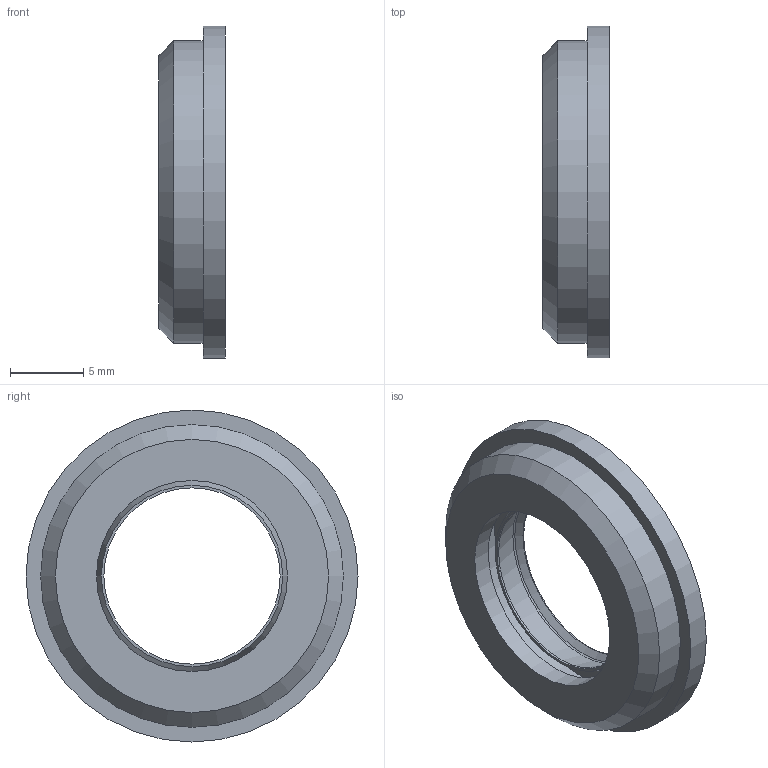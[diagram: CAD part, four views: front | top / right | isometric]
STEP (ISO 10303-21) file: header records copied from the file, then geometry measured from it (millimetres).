
FILE_DESCRIPTION( ( 'STEP AP214' ), '1' );
FILE_NAME( 'U:/Marketing/AvmDoc/LINMOT/CD_2010_06/3D STEP/Accessoires/8319171.step', '2010-06-10T08:49:34', ( ' ' ), ( ' ' ), 'XStep 1.0', ' ', ' ' );
FILE_SCHEMA( ( 'automotive_design' ) );
Length unit declared in the file: millimetre
Products named in the file (1): 1
Bounding box: 4.5 x 22.6 x 22.6 mm (x, y, z)
Volume: 777 mm3; surface area: 1553.2 mm2
Topology: 1 solids, 1 shells, 30 faces, 53 edges, 33 vertices
Faces by surface type: plane 10, cylinder 9, cone 7, torus 4
Full cylindrical faces by diameter (mm): 12 x1, 12.35 x1, 13 x1, 13.35 x1, 16.5 x1, 19 x2, 20.6 x1, 22.6 x1
Entity records: 864 total; most frequent: DIRECTION 122, CARTESIAN_POINT 91, AXIS2_PLACEMENT_3D 61, EDGE_LOOP 60, ORIENTED_EDGE 60, FACE_OUTER_BOUND 43, STYLED_ITEM 30, PRESENTATION_STYLE_ASSIGNMENT 30
